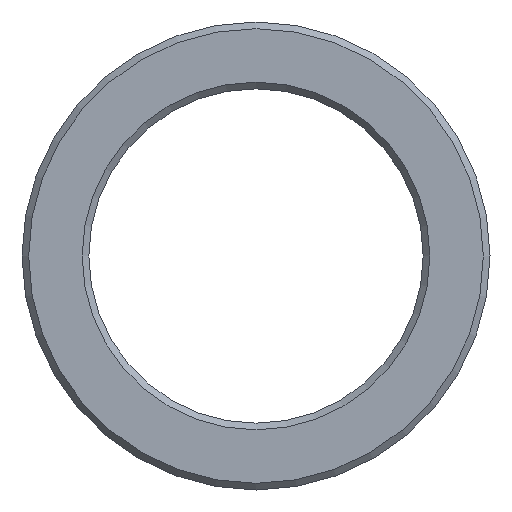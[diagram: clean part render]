
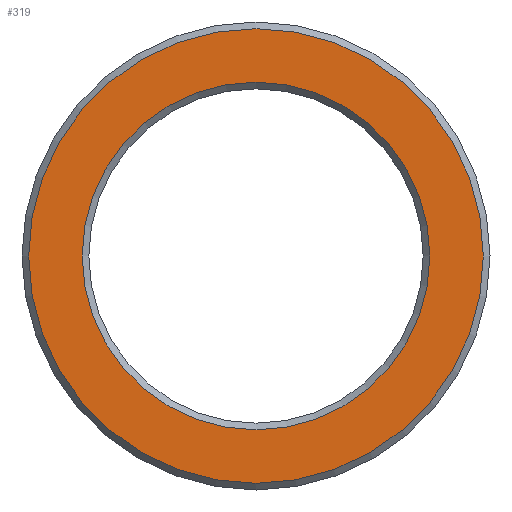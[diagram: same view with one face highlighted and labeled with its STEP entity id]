
A CAD part, left-side view. The second image highlights one B-rep face of the part: STEP entity #319.
In plain terms, the highlighted planar face has unit normal (-1, 0, 0).
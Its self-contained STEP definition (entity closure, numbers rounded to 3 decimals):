
#277=CARTESIAN_POINT('',(-30.0,17.,0.));
#278=VERTEX_POINT('',#277);
#279=CARTESIAN_POINT('',(-30.0,0.0,0.0));
#280=DIRECTION('',(1.0,0.0,0.0));
#281=DIRECTION('',(0.0,-1.0,0.0));
#282=AXIS2_PLACEMENT_3D('',#279,#280,#281);
#283=CIRCLE('',#282,17.);
#284=EDGE_CURVE('',#278,#278,#283,.T.);
#300=CARTESIAN_POINT('',(-30.0,15.,0.0));
#301=DIRECTION('',(-1.0,0.0,0.0));
#302=DIRECTION('',(0.0,0.0,1.0));
#303=AXIS2_PLACEMENT_3D('',#300,#301,#302);
#304=PLANE('',#303);
#305=ORIENTED_EDGE('',*,*,#284,.F.);
#306=EDGE_LOOP('',(#305));
#307=FACE_OUTER_BOUND('',#306,.T.);
#308=CARTESIAN_POINT('',(-30.0,13.,0.));
#309=VERTEX_POINT('',#308);
#310=CARTESIAN_POINT('',(-30.0,0.0,0.0));
#311=DIRECTION('',(-1.0,0.0,0.0));
#312=DIRECTION('',(0.0,-1.0,0.0));
#313=AXIS2_PLACEMENT_3D('',#310,#311,#312);
#314=CIRCLE('',#313,13.);
#315=EDGE_CURVE('',#309,#309,#314,.T.);
#316=ORIENTED_EDGE('',*,*,#315,.F.);
#317=EDGE_LOOP('',(#316));
#318=FACE_BOUND('',#317,.T.);
#319=ADVANCED_FACE('',(#307,#318),#304,.T.);
